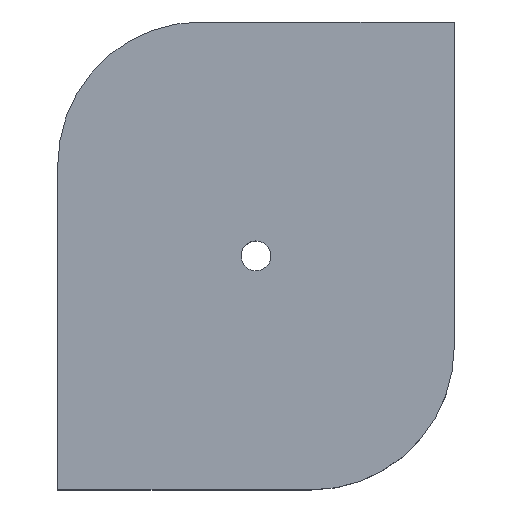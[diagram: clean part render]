
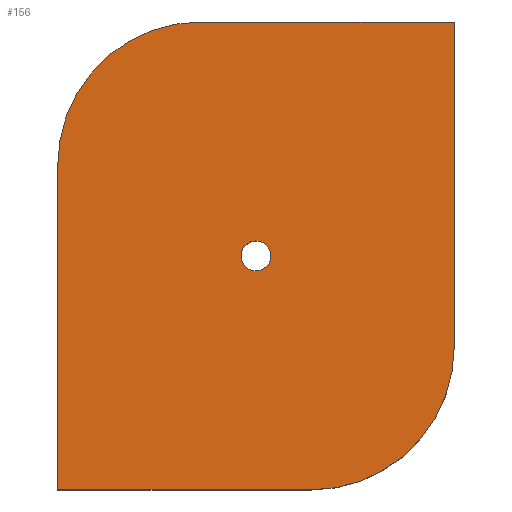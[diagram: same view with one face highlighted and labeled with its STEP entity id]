
A CAD part, top view. The second image highlights one B-rep face of the part: STEP entity #156.
In plain terms, the highlighted planar face has unit normal (0, 0, 1).
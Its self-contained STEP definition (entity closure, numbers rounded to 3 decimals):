
#63=CARTESIAN_POINT('Vertex',(51.825,67.508,26.)) ;
#77=CARTESIAN_POINT('Vertex',(59.175,63.492,26.)) ;
#80=CARTESIAN_POINT('Axis2P3D Location',(55.5,65.5,26.)) ;
#92=CARTESIAN_POINT('Axis2P3D Location',(0.,0.,26.)) ;
#97=CARTESIAN_POINT('Line Origine',(0.,45.5,26.)) ;
#101=CARTESIAN_POINT('Vertex',(0.,91.,26.)) ;
#103=CARTESIAN_POINT('Vertex',(0.,0.,26.)) ;
#106=CARTESIAN_POINT('Line Origine',(35.5,0.,26.)) ;
#110=CARTESIAN_POINT('Vertex',(71.,0.,26.)) ;
#113=CARTESIAN_POINT('Axis2P3D Location',(71.,40.,26.)) ;
#117=CARTESIAN_POINT('Vertex',(111.,40.,26.)) ;
#120=CARTESIAN_POINT('Line Origine',(111.,85.5,26.)) ;
#124=CARTESIAN_POINT('Vertex',(111.,131.,26.)) ;
#127=CARTESIAN_POINT('Line Origine',(75.5,131.,26.)) ;
#131=CARTESIAN_POINT('Vertex',(40.,131.,26.)) ;
#134=CARTESIAN_POINT('Axis2P3D Location',(40.,91.,26.)) ;
#147=CARTESIAN_POINT('Axis2P3D Location',(55.5,65.5,26.)) ;
#81=DIRECTION('Axis2P3D Direction',(0.,-0.,-1.)) ;
#93=DIRECTION('Axis2P3D Direction',(0.,0.,1.)) ;
#94=DIRECTION('Axis2P3D XDirection',(1.,0.,0.)) ;
#98=DIRECTION('Vector Direction',(0.,-1.,0.)) ;
#107=DIRECTION('Vector Direction',(1.,0.,0.)) ;
#114=DIRECTION('Axis2P3D Direction',(0.,0.,1.)) ;
#121=DIRECTION('Vector Direction',(0.,1.,0.)) ;
#128=DIRECTION('Vector Direction',(-1.,0.,0.)) ;
#135=DIRECTION('Axis2P3D Direction',(0.,0.,1.)) ;
#148=DIRECTION('Axis2P3D Direction',(0.,0.,1.)) ;
#82=AXIS2_PLACEMENT_3D('Circle Axis2P3D',#80,#81,$) ;
#95=AXIS2_PLACEMENT_3D('Plane Axis2P3D',#92,#93,#94) ;
#115=AXIS2_PLACEMENT_3D('Circle Axis2P3D',#113,#114,$) ;
#136=AXIS2_PLACEMENT_3D('Circle Axis2P3D',#134,#135,$) ;
#149=AXIS2_PLACEMENT_3D('Circle Axis2P3D',#147,#148,$) ;
#140=ORIENTED_EDGE('',*,*,#105,.T.) ;
#141=ORIENTED_EDGE('',*,*,#112,.T.) ;
#142=ORIENTED_EDGE('',*,*,#119,.F.) ;
#143=ORIENTED_EDGE('',*,*,#126,.T.) ;
#144=ORIENTED_EDGE('',*,*,#133,.T.) ;
#145=ORIENTED_EDGE('',*,*,#138,.F.) ;
#153=ORIENTED_EDGE('',*,*,#151,.F.) ;
#154=ORIENTED_EDGE('',*,*,#84,.F.) ;
#155=FACE_BOUND('',#152,.T.) ;
#99=VECTOR('Line Direction',#98,1.) ;
#108=VECTOR('Line Direction',#107,1.) ;
#122=VECTOR('Line Direction',#121,1.) ;
#129=VECTOR('Line Direction',#128,1.) ;
#156=ADVANCED_FACE('PartBody',(#146,#155),#96,.T.) ;
#83=CIRCLE('generated circle',#82,4.188) ;
#116=CIRCLE('generated circle',#115,40.) ;
#137=CIRCLE('generated circle',#136,40.) ;
#150=CIRCLE('generated circle',#149,4.188) ;
#84=EDGE_CURVE('',#78,#64,#83,.F.) ;
#105=EDGE_CURVE('',#102,#104,#100,.T.) ;
#112=EDGE_CURVE('',#104,#111,#109,.T.) ;
#119=EDGE_CURVE('',#118,#111,#116,.F.) ;
#126=EDGE_CURVE('',#118,#125,#123,.T.) ;
#133=EDGE_CURVE('',#125,#132,#130,.T.) ;
#138=EDGE_CURVE('',#102,#132,#137,.F.) ;
#151=EDGE_CURVE('',#64,#78,#150,.T.) ;
#139=EDGE_LOOP('',(#140,#141,#142,#143,#144,#145)) ;
#152=EDGE_LOOP('',(#153,#154)) ;
#146=FACE_OUTER_BOUND('',#139,.T.) ;
#100=LINE('Line',#97,#99) ;
#109=LINE('Line',#106,#108) ;
#123=LINE('Line',#120,#122) ;
#130=LINE('Line',#127,#129) ;
#96=PLANE('',#95) ;
#64=VERTEX_POINT('',#63) ;
#78=VERTEX_POINT('',#77) ;
#102=VERTEX_POINT('',#101) ;
#104=VERTEX_POINT('',#103) ;
#111=VERTEX_POINT('',#110) ;
#118=VERTEX_POINT('',#117) ;
#125=VERTEX_POINT('',#124) ;
#132=VERTEX_POINT('',#131) ;
